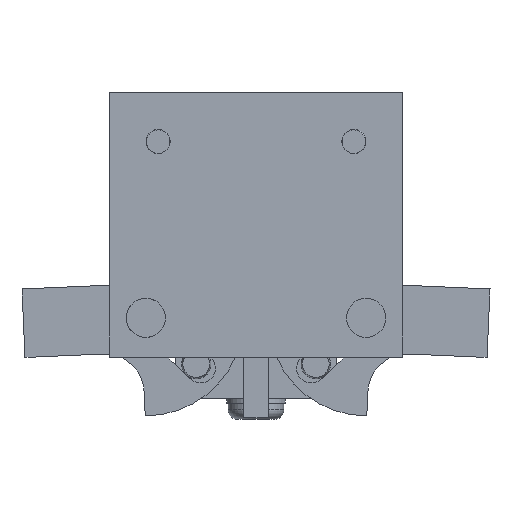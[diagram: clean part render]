
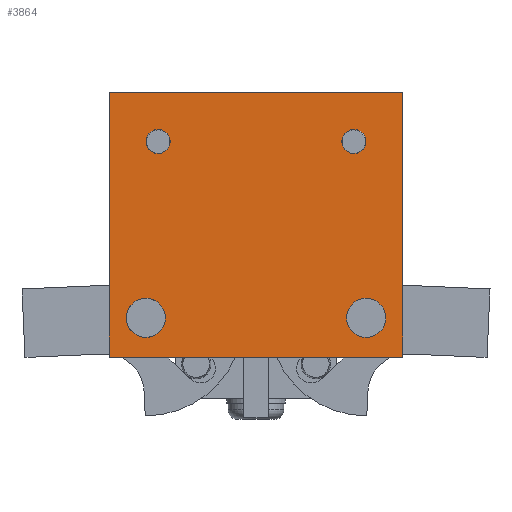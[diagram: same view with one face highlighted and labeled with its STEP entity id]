
A CAD part, left-side view. The second image highlights one B-rep face of the part: STEP entity #3864.
In plain terms, the highlighted planar face has unit normal (-1, 0, 0).
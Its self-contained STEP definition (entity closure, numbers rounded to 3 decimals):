
#3201=CARTESIAN_POINT('',(-27.742,5.0,24.227));
#3202=VERTEX_POINT('',#3201);
#3203=CARTESIAN_POINT('',(-27.742,5.0,22.997));
#3204=DIRECTION('',(1.0,0.0,0.0));
#3205=DIRECTION('',(0.0,0.0,-1.0));
#3206=AXIS2_PLACEMENT_3D('',#3203,#3204,#3205);
#3207=CIRCLE('',#3206,1.23);
#3208=EDGE_CURVE('',#3202,#3202,#3207,.T.);
#3242=CARTESIAN_POINT('',(-27.742,25.0,24.227));
#3243=VERTEX_POINT('',#3242);
#3244=CARTESIAN_POINT('',(-27.742,25.0,22.997));
#3245=DIRECTION('',(1.0,0.0,0.0));
#3246=DIRECTION('',(0.0,0.0,-1.0));
#3247=AXIS2_PLACEMENT_3D('',#3244,#3245,#3246);
#3248=CIRCLE('',#3247,1.23);
#3249=EDGE_CURVE('',#3243,#3243,#3248,.T.);
#3347=CARTESIAN_POINT('',(-27.742,0.0,27.997));
#3348=VERTEX_POINT('',#3347);
#3355=CARTESIAN_POINT('',(-27.742,0.0,0.997));
#3356=VERTEX_POINT('',#3355);
#3357=CARTESIAN_POINT('',(-27.742,0.0,27.997));
#3358=DIRECTION('',(0.0,0.0,-1.0));
#3359=VECTOR('',#3358,27.0);
#3360=LINE('',#3357,#3359);
#3361=EDGE_CURVE('',#3348,#3356,#3360,.T.);
#3426=CARTESIAN_POINT('',(-27.742,30.0,27.997));
#3427=VERTEX_POINT('',#3426);
#3434=CARTESIAN_POINT('',(-27.742,0.0,27.997));
#3435=DIRECTION('',(0.0,1.0,0.0));
#3436=VECTOR('',#3435,30.0);
#3437=LINE('',#3434,#3436);
#3438=EDGE_CURVE('',#3348,#3427,#3437,.T.);
#3619=CARTESIAN_POINT('',(-27.742,3.75,6.997));
#3620=VERTEX_POINT('',#3619);
#3621=CARTESIAN_POINT('',(-27.742,3.75,4.997));
#3622=DIRECTION('',(1.0,0.0,0.0));
#3623=DIRECTION('',(0.0,0.0,-1.0));
#3624=AXIS2_PLACEMENT_3D('',#3621,#3622,#3623);
#3625=CIRCLE('',#3624,2.0);
#3626=EDGE_CURVE('',#3620,#3620,#3625,.T.);
#3660=CARTESIAN_POINT('',(-27.742,26.25,6.997));
#3661=VERTEX_POINT('',#3660);
#3662=CARTESIAN_POINT('',(-27.742,26.25,4.997));
#3663=DIRECTION('',(1.0,0.0,0.0));
#3664=DIRECTION('',(0.0,0.0,-1.0));
#3665=AXIS2_PLACEMENT_3D('',#3662,#3663,#3664);
#3666=CIRCLE('',#3665,2.0);
#3667=EDGE_CURVE('',#3661,#3661,#3666,.T.);
#3829=CARTESIAN_POINT('',(-27.742,0.0,27.997));
#3830=DIRECTION('',(-1.0,0.0,0.0));
#3831=DIRECTION('',(0.0,0.0,1.0));
#3832=AXIS2_PLACEMENT_3D('',#3829,#3830,#3831);
#3833=PLANE('',#3832);
#3834=CARTESIAN_POINT('',(-27.742,30.0,0.997));
#3835=VERTEX_POINT('',#3834);
#3836=CARTESIAN_POINT('',(-27.742,30.0,27.997));
#3837=DIRECTION('',(0.0,0.0,-1.0));
#3838=VECTOR('',#3837,27.0);
#3839=LINE('',#3836,#3838);
#3840=EDGE_CURVE('',#3427,#3835,#3839,.T.);
#3841=ORIENTED_EDGE('',*,*,#3840,.T.);
#3842=CARTESIAN_POINT('',(-27.742,0.0,0.997));
#3843=DIRECTION('',(0.0,1.0,0.0));
#3844=VECTOR('',#3843,30.0);
#3845=LINE('',#3842,#3844);
#3846=EDGE_CURVE('',#3356,#3835,#3845,.T.);
#3847=ORIENTED_EDGE('',*,*,#3846,.F.);
#3848=ORIENTED_EDGE('',*,*,#3361,.F.);
#3849=ORIENTED_EDGE('',*,*,#3438,.T.);
#3850=EDGE_LOOP('',(#3841,#3847,#3848,#3849));
#3851=FACE_OUTER_BOUND('',#3850,.T.);
#3852=ORIENTED_EDGE('',*,*,#3208,.T.);
#3853=EDGE_LOOP('',(#3852));
#3854=FACE_BOUND('',#3853,.T.);
#3855=ORIENTED_EDGE('',*,*,#3249,.T.);
#3856=EDGE_LOOP('',(#3855));
#3857=FACE_BOUND('',#3856,.T.);
#3858=ORIENTED_EDGE('',*,*,#3626,.T.);
#3859=EDGE_LOOP('',(#3858));
#3860=FACE_BOUND('',#3859,.T.);
#3861=ORIENTED_EDGE('',*,*,#3667,.T.);
#3862=EDGE_LOOP('',(#3861));
#3863=FACE_BOUND('',#3862,.T.);
#3864=ADVANCED_FACE('',(#3851,#3854,#3857,#3860,#3863),#3833,.T.);
